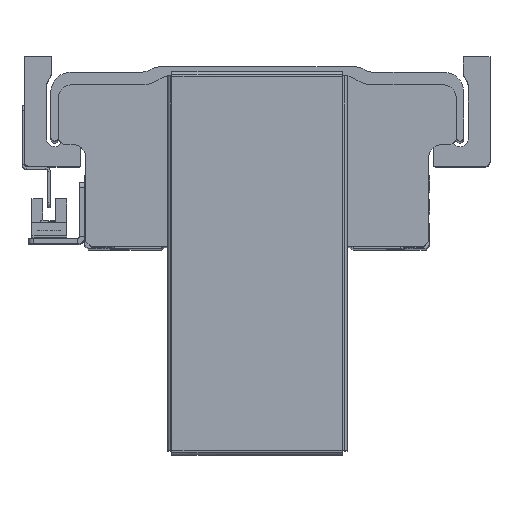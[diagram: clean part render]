
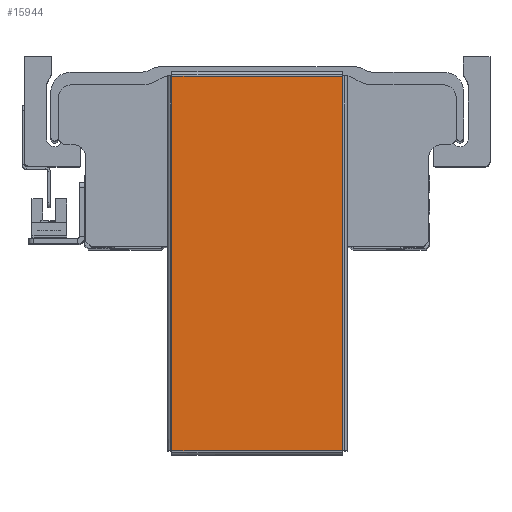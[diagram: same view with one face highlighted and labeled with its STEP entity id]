
A CAD part, top view. The second image highlights one B-rep face of the part: STEP entity #15944.
In plain terms, the highlighted planar face has unit normal (0, 0, 1) as drawn and (0, -1, 0) by its records, which use the part's own axes.
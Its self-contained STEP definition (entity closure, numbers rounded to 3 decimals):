
#3344 = EDGE_LOOP ( 'NONE', ( #4688, #4649, #4629, #4670 ) ) ;
#4629 = ORIENTED_EDGE ( 'NONE', *, *, #19067, .T. ) ;
#4649 = ORIENTED_EDGE ( 'NONE', *, *, #18997, .T. ) ;
#4670 = ORIENTED_EDGE ( 'NONE', *, *, #19043, .T. ) ;
#4688 = ORIENTED_EDGE ( 'NONE', *, *, #19080, .T. ) ;
#9843 = VERTEX_POINT ( 'NONE', #43406 ) ;
#9867 = VERTEX_POINT ( 'NONE', #43376 ) ;
#9932 = VERTEX_POINT ( 'NONE', #43418 ) ;
#12180 = VERTEX_POINT ( 'NONE', #44514 ) ;
#15944 = ADVANCED_FACE ( 'NONE', ( #25964 ), #27747, .F. ) ;
#18997 = EDGE_CURVE ( 'NONE', #9867, #9932, #47411, .T. ) ;
#19043 = EDGE_CURVE ( 'NONE', #9843, #12180, #47495, .T. ) ;
#19067 = EDGE_CURVE ( 'NONE', #9932, #9843, #47502, .T. ) ;
#19080 = EDGE_CURVE ( 'NONE', #12180, #9867, #47561, .T. ) ;
#25964 = FACE_OUTER_BOUND ( 'NONE', #3344, .T. ) ;
#27747 = PLANE ( 'NONE',  #29043 ) ;
#27757 = DIRECTION ( 'NONE',  ( 0., 0., 1. ) ) ;
#27764 = DIRECTION ( 'NONE',  ( 0., 1., 0. ) ) ;
#27774 = CARTESIAN_POINT ( 'NONE',  ( 0., -1., 0. ) ) ;
#29043 = AXIS2_PLACEMENT_3D ( 'NONE', #27774, #27764, #27757 ) ;
#35076 = CARTESIAN_POINT ( 'NONE',  ( -73.263, -1., 33.393 ) ) ;
#35206 = DIRECTION ( 'NONE',  ( 0., 0., -1. ) ) ;
#43376 = CARTESIAN_POINT ( 'NONE',  ( -73.263, -1., 33.363 ) ) ;
#43406 = CARTESIAN_POINT ( 'NONE',  ( 73.263, -1., -33.363 ) ) ;
#43418 = CARTESIAN_POINT ( 'NONE',  ( -73.263, -1., -33.363 ) ) ;
#44514 = CARTESIAN_POINT ( 'NONE',  ( 73.263, -1., 33.363 ) ) ;
#47359 = VECTOR ( 'NONE', #35206, 1000. ) ;
#47411 = LINE ( 'NONE', #35076, #47359 ) ;
#47491 = VECTOR ( 'NONE', #48167, 1000. ) ;
#47495 = LINE ( 'NONE', #48053, #47511 ) ;
#47502 = LINE ( 'NONE', #48171, #47491 ) ;
#47511 = VECTOR ( 'NONE', #48064, 1000. ) ;
#47561 = LINE ( 'NONE', #48150, #47564 ) ;
#47564 = VECTOR ( 'NONE', #48175, 1000. ) ;
#48053 = CARTESIAN_POINT ( 'NONE',  ( 73.263, -1., -33.393 ) ) ;
#48064 = DIRECTION ( 'NONE',  ( 0., 0., 1. ) ) ;
#48150 = CARTESIAN_POINT ( 'NONE',  ( 73.293, -1., 33.363 ) ) ;
#48167 = DIRECTION ( 'NONE',  ( 1., 0., 0. ) ) ;
#48171 = CARTESIAN_POINT ( 'NONE',  ( -73.293, -1., -33.363 ) ) ;
#48175 = DIRECTION ( 'NONE',  ( -1., 0., 0. ) ) ;
